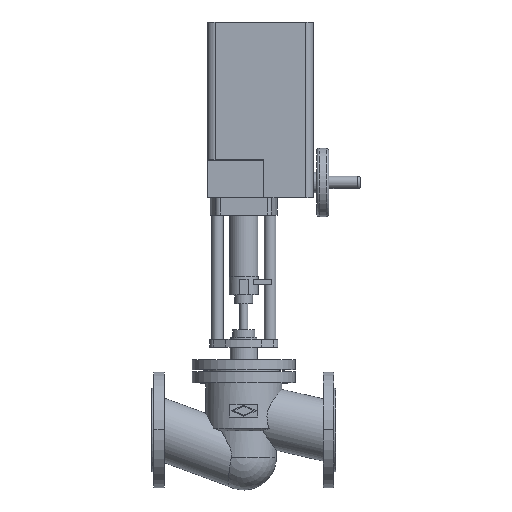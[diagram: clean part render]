
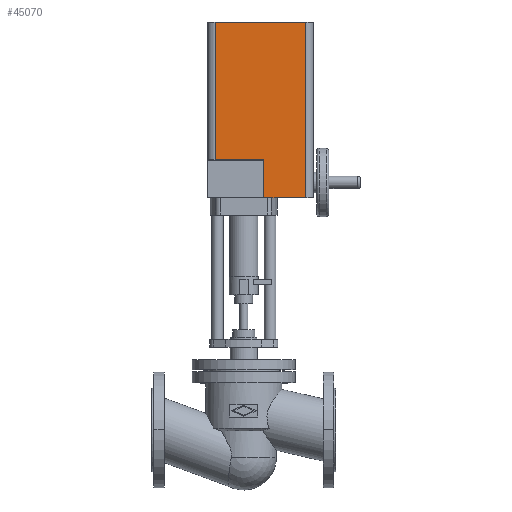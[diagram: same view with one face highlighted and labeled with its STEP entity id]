
A CAD part, top view. The second image highlights one B-rep face of the part: STEP entity #45070.
In plain terms, the highlighted planar face has unit normal (0, 0, 1).
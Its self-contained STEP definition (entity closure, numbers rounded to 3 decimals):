
#38570=CARTESIAN_POINT('',(213.1,441.,114.));
#38580=VERTEX_POINT('',#38570);
#38630=CARTESIAN_POINT('',(120.6,441.,114.));
#38640=DIRECTION('',(1.,0.,0.));
#38650=VECTOR('',#38640,1.);
#38660=LINE('',#38630,#38650);
#38670=CARTESIAN_POINT('',(292.6,441.,114.));
#38680=VERTEX_POINT('',#38670);
#38690=EDGE_CURVE('',#38580,#38680,#38660,.T.);
#40700=CARTESIAN_POINT('',(213.1,512.5,114.));
#40710=VERTEX_POINT('',#40700);
#40740=CARTESIAN_POINT('',(213.1,441.,114.));
#40750=DIRECTION('',(0.,-1.,0.));
#40760=VECTOR('',#40750,1.);
#40770=LINE('',#40740,#40760);
#40780=EDGE_CURVE('',#40710,#38580,#40770,.T.);
#41110=CARTESIAN_POINT('',(120.6,774.5,114.));
#41120=VERTEX_POINT('',#41110);
#41150=CARTESIAN_POINT('',(120.6,441.,114.));
#41160=DIRECTION('',(0.,1.,0.));
#41170=VECTOR('',#41160,1.);
#41180=LINE('',#41150,#41170);
#41190=CARTESIAN_POINT('',(120.6,512.5,114.));
#41200=VERTEX_POINT('',#41190);
#41210=EDGE_CURVE('',#41200,#41120,#41180,.T.);
#44500=CARTESIAN_POINT('',(292.6,441.,114.));
#44510=DIRECTION('',(0.,-1.,0.));
#44520=VECTOR('',#44510,1.);
#44530=LINE('',#44500,#44520);
#44540=CARTESIAN_POINT('',(292.6,774.5,114.));
#44550=VERTEX_POINT('',#44540);
#44560=EDGE_CURVE('',#44550,#38680,#44530,.T.);
#44780=CARTESIAN_POINT('',(120.6,774.5,114.));
#44790=DIRECTION('',(-1.,0.,0.));
#44800=VECTOR('',#44790,1.);
#44810=LINE('',#44780,#44800);
#44820=EDGE_CURVE('',#44550,#41120,#44810,.T.);
#44890=CARTESIAN_POINT('',(292.6,441.,114.));
#44900=DIRECTION('',(0.,0.,1.));
#44910=DIRECTION('',(1.,0.,0.));
#44920=AXIS2_PLACEMENT_3D('',#44890,#44900,#44910);
#44930=PLANE('',#44920);
#44940=ORIENTED_EDGE('',*,*,#41210,.F.);
#44950=ORIENTED_EDGE('',*,*,#44820,.T.);
#44960=ORIENTED_EDGE('',*,*,#44560,.F.);
#44970=ORIENTED_EDGE('',*,*,#38690,.T.);
#44980=ORIENTED_EDGE('',*,*,#40780,.T.);
#44990=CARTESIAN_POINT('',(233.8,512.5,114.));
#45000=DIRECTION('',(1.,0.,0.));
#45010=VECTOR('',#45000,1.);
#45020=LINE('',#44990,#45010);
#45030=EDGE_CURVE('',#41200,#40710,#45020,.T.);
#45040=ORIENTED_EDGE('',*,*,#45030,.T.);
#45050=EDGE_LOOP('',(#45040,#44980,#44970,#44960,#44950,#44940));
#45060=FACE_OUTER_BOUND('',#45050,.T.);
#45070=ADVANCED_FACE('',(#45060),#44930,.T.);
